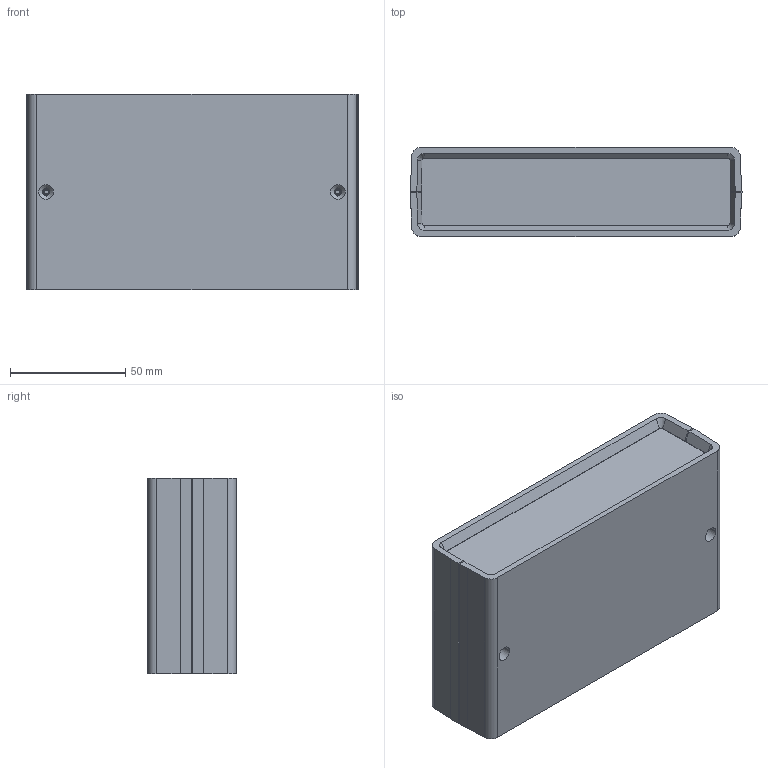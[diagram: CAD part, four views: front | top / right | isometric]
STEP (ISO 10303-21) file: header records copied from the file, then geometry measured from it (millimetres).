
FILE_DESCRIPTION (( 'STEP AP203' ), '1' );
FILE_NAME ('DT-085.STEP', '2020-09-07T10:37:07', ( '' ), ( '' ), 'SwSTEP 2.0', 'SolidWorks 2020', '' );
FILE_SCHEMA (( 'CONFIG_CONTROL_DESIGN' ));
Length unit declared in the file: millimetre
Products named in the file (5): DT-085_YanPanel_a; DT-085; DT-085_Alt_Altqapak; DT-085_YanPanel; DT-085_Alt_《tkapak
Assembly tree (4 placements, depth 2):
  DT-085
    DT-085_Alt_Altqapak
    DT-085_Alt_《tkapak
    DT-085_YanPanel_a
    DT-085_YanPanel
Bounding box: 144.2 x 38.56 x 85 mm (x, y, z)
Volume: 115307.4 mm3; surface area: 90140.4 mm2
Topology: 4 solids, 4 shells, 268 faces, 664 edges, 430 vertices
Faces by surface type: plane 158, cone 48, cylinder 44, torus 18
Entity records: 8463 total; most frequent: DIRECTION 1422, CARTESIAN_POINT 1369, ORIENTED_EDGE 1328, EDGE_CURVE 664, AXIS2_PLACEMENT_3D 483, LINE 456, VECTOR 456, VERTEX_POINT 430
